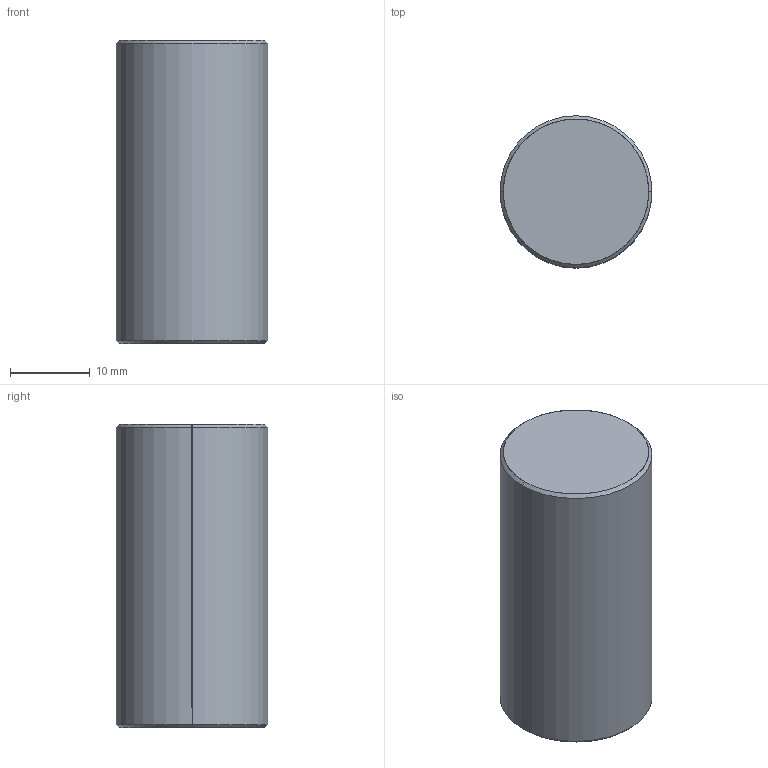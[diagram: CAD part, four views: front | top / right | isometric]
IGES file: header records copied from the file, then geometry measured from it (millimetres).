
Start section: SolidWorks IGES file using analytic representation for surfaces
Global section: file name: D:\Solid_parts\MECHeDESIGN\Bal-Tec\Catalog 105-A\Distribution\IGES\750-C.IGS; native system: SolidWorks 2005 by SolidWorks Corporation; preprocessor: SolidWorks 2005 by SolidWorks Corporation; author: rvillegas; date: 061204.230005; units: inch
Bounding box: 19.05 x 19.05 x 38.1 mm (x, y, z)
Surface area: 2821.3 mm2 (no closed solid volume)
Topology: 0 solids, 0 shells, 8 faces, 88 edges, 88 vertices
Faces by surface type: revolution 6, bspline 2
